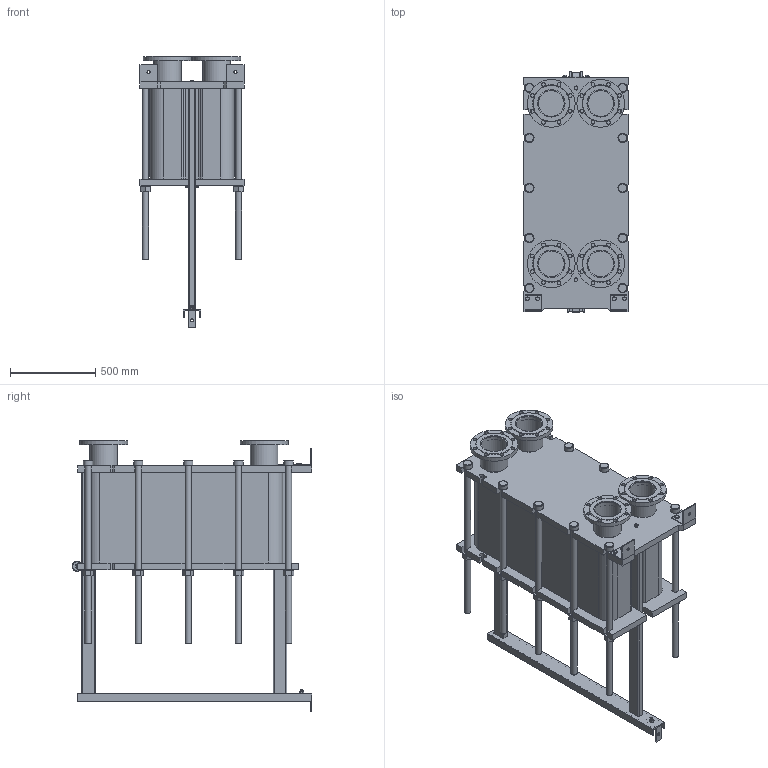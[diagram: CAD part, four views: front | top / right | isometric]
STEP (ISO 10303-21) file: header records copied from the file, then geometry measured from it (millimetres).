
FILE_DESCRIPTION(/* description */ (''),/* implementation_level */ '2;1');
FILE_NAME(/* name */ 'C:\Users\zhuro\Desktop\ENCO\TO\ЭН-041\ЭН-0,5-041-154-1.stp',/* time_stamp */ '2022-06-06T11:02:18+03:00',/* author */ ('zhuro'),/* organization */ (''),/* preprocessor_version */ 'ST-DEVELOPER v18.1',/* originating_system */ 'Autodesk Inventor 2022',/* authorisation */ '');
FILE_SCHEMA (('AUTOMOTIVE_DESIGN { 1 0 10303 214 3 1 1 }'));
Length unit declared in the file: millimetre
Products named in the file (1): ЭН-0,5-041-154-1
Bounding box: 610 x 1406.5 x 1595 mm (x, y, z)
Volume: 383090796.3 mm3; surface area: 10215166.8 mm2
Topology: 52 solids, 52 shells, 711 faces, 1696 edges, 1094 vertices
Faces by surface type: plane 487, cylinder 177, cone 41, torus 6
Full cylindrical faces by diameter (mm): 8 x4, 10 x2, 16 x8, 18 x3, 22 x32, 36 x24, 50 x1, 54 x10, 60 x12, 151 x4, 161 x8, 280 x4
Entity records: 22667 total; most frequent: CARTESIAN_POINT 5230, DIRECTION 3644, ORIENTED_EDGE 3392, EDGE_CURVE 1696, AXIS2_PLACEMENT_3D 1272, LINE 1100, VECTOR 1100, VERTEX_POINT 1094
